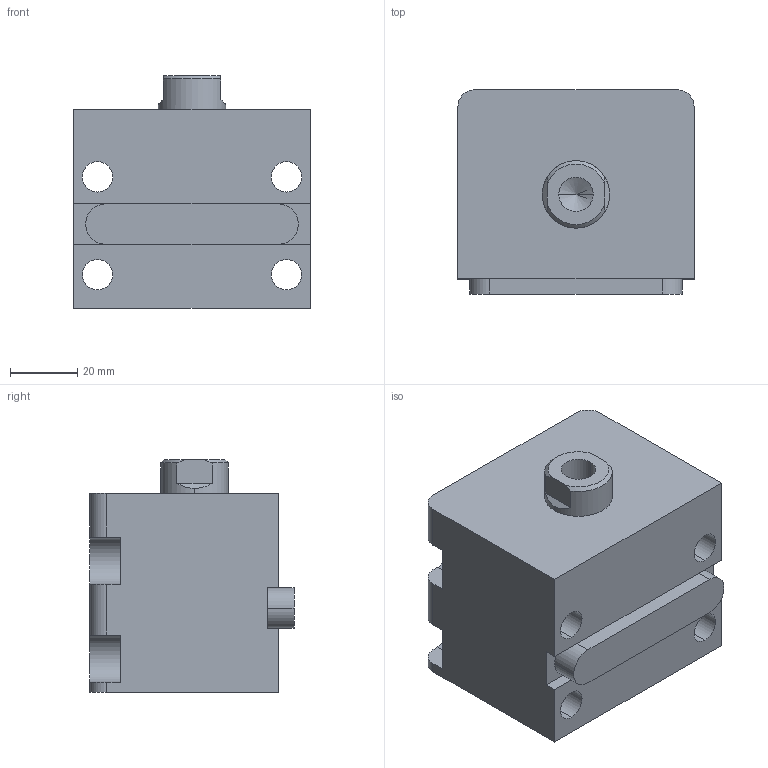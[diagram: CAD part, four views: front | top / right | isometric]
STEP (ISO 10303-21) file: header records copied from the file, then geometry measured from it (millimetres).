
FILE_DESCRIPTION (( 'STEP AP203' ), '1' );
FILE_NAME ('HTB-LA32-5N.STEP', '2019-10-09T06:23:13', ( '微软用户' ), ( '微软中国' ), 'SwSTEP 2.0', 'SolidWorks 2012', '' );
FILE_SCHEMA (( 'CONFIG_CONTROL_DESIGN' ));
Length unit declared in the file: millimetre
Products named in the file (4): HTB-LA32-5掛极; HTB-LA32-5N活塞杆; HTB-LA32-瑩; HTB-LA32-5N
Assembly tree (3 placements, depth 2):
  HTB-LA32-5N
    HTB-LA32-5掛极
    HTB-LA32-5N活塞杆
    HTB-LA32-瑩
Bounding box: 70 x 60.5 x 69 mm (x, y, z)
Volume: 212743.6 mm3; surface area: 43055 mm2
Topology: 3 solids, 3 shells, 88 faces, 217 edges, 141 vertices
Faces by surface type: plane 39, cylinder 35, cone 8, torus 6
Entity records: 3053 total; most frequent: DIRECTION 487, CARTESIAN_POINT 478, ORIENTED_EDGE 430, EDGE_CURVE 215, AXIS2_PLACEMENT_3D 186, VERTEX_POINT 141, VECTOR 115, LINE 115
